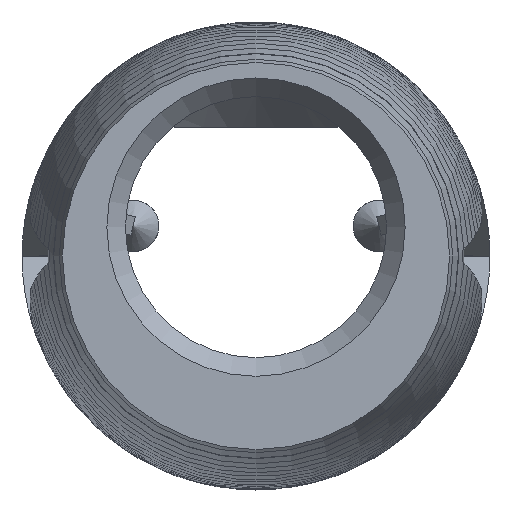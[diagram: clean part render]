
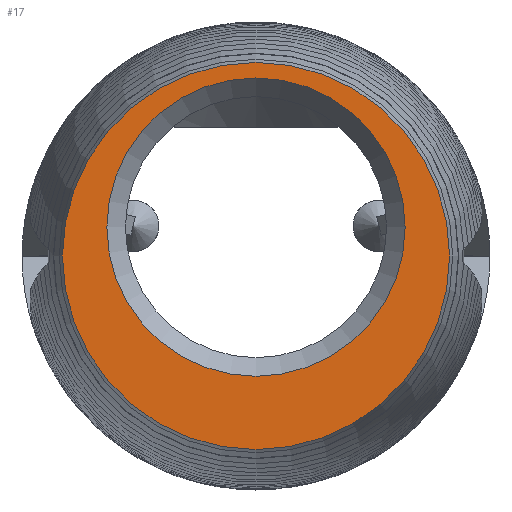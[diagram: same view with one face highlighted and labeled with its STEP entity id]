
A CAD part, left-side view. The second image highlights one B-rep face of the part: STEP entity #17.
In plain terms, the highlighted planar face has unit normal (-1, 0, 0).
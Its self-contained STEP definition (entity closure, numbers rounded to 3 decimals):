
#17 = ADVANCED_FACE('',(#18,#54),#31,.F.);
#18 = FACE_BOUND('',#19,.F.);
#19 = EDGE_LOOP('',(#20));
#20 = ORIENTED_EDGE('',*,*,#21,.F.);
#21 = EDGE_CURVE('',#22,#22,#24,.T.);
#22 = VERTEX_POINT('',#23);
#23 = CARTESIAN_POINT('',(18.4,0.,15.22));
#24 = SURFACE_CURVE('',#25,(#30,#42),.PCURVE_S1.);
#25 = CIRCLE('',#26,12.75);
#26 = AXIS2_PLACEMENT_3D('',#27,#28,#29);
#27 = CARTESIAN_POINT('',(18.4,0.,2.47));
#28 = DIRECTION('',(1.,0.,0.));
#29 = DIRECTION('',(-0.,0.,1.));
#30 = PCURVE('',#31,#36);
#31 = PLANE('',#32);
#32 = AXIS2_PLACEMENT_3D('',#33,#34,#35);
#33 = CARTESIAN_POINT('',(18.4,-30.,-30.));
#34 = DIRECTION('',(1.,0.,-0.));
#35 = DIRECTION('',(0.,0.,1.));
#36 = DEFINITIONAL_REPRESENTATION('',(#37),#41);
#37 = CIRCLE('',#38,12.75);
#38 = AXIS2_PLACEMENT_2D('',#39,#40);
#39 = CARTESIAN_POINT('',(32.47,-30.));
#40 = DIRECTION('',(1.,0.));
#41 = ( GEOMETRIC_REPRESENTATION_CONTEXT(2) 
PARAMETRIC_REPRESENTATION_CONTEXT() REPRESENTATION_CONTEXT('2D SPACE',''
  ) );
#42 = PCURVE('',#43,#48);
#43 = CYLINDRICAL_SURFACE('',#44,12.75);
#44 = AXIS2_PLACEMENT_3D('',#45,#46,#47);
#45 = CARTESIAN_POINT('',(17.4,0.,2.47));
#46 = DIRECTION('',(1.,0.,0.));
#47 = DIRECTION('',(-0.,0.,1.));
#48 = DEFINITIONAL_REPRESENTATION('',(#49),#53);
#49 = LINE('',#50,#51);
#50 = CARTESIAN_POINT('',(0.,1.));
#51 = VECTOR('',#52,1.);
#52 = DIRECTION('',(1.,0.));
#53 = ( GEOMETRIC_REPRESENTATION_CONTEXT(2) 
PARAMETRIC_REPRESENTATION_CONTEXT() REPRESENTATION_CONTEXT('2D SPACE',''
  ) );
#54 = FACE_BOUND('',#55,.F.);
#55 = EDGE_LOOP('',(#56));
#56 = ORIENTED_EDGE('',*,*,#57,.F.);
#57 = EDGE_CURVE('',#58,#58,#60,.T.);
#58 = VERTEX_POINT('',#59);
#59 = CARTESIAN_POINT('',(18.4,16.544,0.));
#60 = SURFACE_CURVE('',#61,(#66,#77),.PCURVE_S1.);
#61 = CIRCLE('',#62,16.544);
#62 = AXIS2_PLACEMENT_3D('',#63,#64,#65);
#63 = CARTESIAN_POINT('',(18.4,0.,0.));
#64 = DIRECTION('',(-1.,-0.,0.));
#65 = DIRECTION('',(-0.,1.,0.));
#66 = PCURVE('',#31,#67);
#67 = DEFINITIONAL_REPRESENTATION('',(#68),#76);
#68 = ( BOUNDED_CURVE() B_SPLINE_CURVE(2,(#69,#70,#71,#72,#73,#74,#75),
.UNSPECIFIED.,.T.,.F.) B_SPLINE_CURVE_WITH_KNOTS((1,2,2,2,2,1),(
    -2.094,0.,2.094,4.189,6.283,
8.378),.UNSPECIFIED.) CURVE() GEOMETRIC_REPRESENTATION_ITEM() 
RATIONAL_B_SPLINE_CURVE((1.,0.5,1.,0.5,1.,0.5,1.)) REPRESENTATION_ITEM(
  '') );
#69 = CARTESIAN_POINT('',(30.,-46.544));
#70 = CARTESIAN_POINT('',(1.345,-46.544));
#71 = CARTESIAN_POINT('',(15.672,-21.728));
#72 = CARTESIAN_POINT('',(30.,3.088));
#73 = CARTESIAN_POINT('',(44.328,-21.728));
#74 = CARTESIAN_POINT('',(58.655,-46.544));
#75 = CARTESIAN_POINT('',(30.,-46.544));
#76 = ( GEOMETRIC_REPRESENTATION_CONTEXT(2) 
PARAMETRIC_REPRESENTATION_CONTEXT() REPRESENTATION_CONTEXT('2D SPACE',''
  ) );
#77 = PCURVE('',#78,#83);
#78 = CONICAL_SURFACE('',#79,16.544,0.305);
#79 = AXIS2_PLACEMENT_3D('',#80,#81,#82);
#80 = CARTESIAN_POINT('',(18.4,0.,0.));
#81 = DIRECTION('',(1.,0.,0.));
#82 = DIRECTION('',(-0.,1.,0.));
#83 = DEFINITIONAL_REPRESENTATION('',(#84),#88);
#84 = LINE('',#85,#86);
#85 = CARTESIAN_POINT('',(6.283,0.));
#86 = VECTOR('',#87,1.);
#87 = DIRECTION('',(-1.,-0.));
#88 = ( GEOMETRIC_REPRESENTATION_CONTEXT(2) 
PARAMETRIC_REPRESENTATION_CONTEXT() REPRESENTATION_CONTEXT('2D SPACE',''
  ) );
